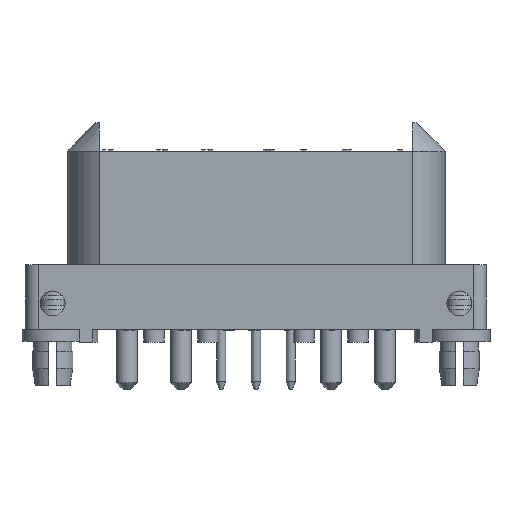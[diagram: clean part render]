
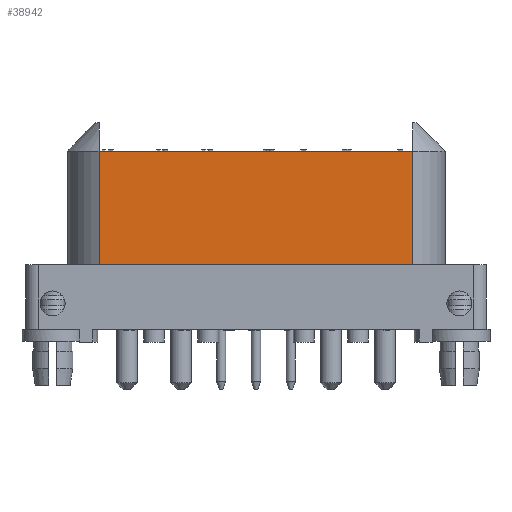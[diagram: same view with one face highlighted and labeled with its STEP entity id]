
A CAD part, front view. The second image highlights one B-rep face of the part: STEP entity #38942.
In plain terms, the highlighted planar face has unit normal (0, -1, 0).
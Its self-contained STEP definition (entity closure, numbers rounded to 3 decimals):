
#63 = ORIENTED_EDGE ( 'NONE', *, *, #23722, .F. ) ;
#1077 = VECTOR ( 'NONE', #43194, 1000. ) ;
#1976 = CARTESIAN_POINT ( 'NONE',  ( 12.15, -4.4, -8.8 ) ) ;
#5747 = VERTEX_POINT ( 'NONE', #35285 ) ;
#5969 = ORIENTED_EDGE ( 'NONE', *, *, #41421, .F. ) ;
#6167 = CARTESIAN_POINT ( 'NONE',  ( -12.15, -4.4, -14.8 ) ) ;
#6658 = LINE ( 'NONE', #24655, #38358 ) ;
#7205 = DIRECTION ( 'NONE',  ( 0., 0., 1. ) ) ;
#8109 = DIRECTION ( 'NONE',  ( -1., 0., 0. ) ) ;
#9483 = VERTEX_POINT ( 'NONE', #45955 ) ;
#17825 = LINE ( 'NONE', #43117, #53683 ) ;
#22124 = CARTESIAN_POINT ( 'NONE',  ( -12.15, -4.4, -14.8 ) ) ;
#23722 = EDGE_CURVE ( 'NONE', #45962, #49558, #33990, .T. ) ;
#24466 = EDGE_CURVE ( 'NONE', #9483, #5747, #17825, .T. ) ;
#24655 = CARTESIAN_POINT ( 'NONE',  ( 12.15, -4.4, -14.8 ) ) ;
#25791 = VECTOR ( 'NONE', #8109, 1000. ) ;
#27826 = FACE_OUTER_BOUND ( 'NONE', #37873, .T. ) ;
#29705 = ORIENTED_EDGE ( 'NONE', *, *, #24466, .F. ) ;
#31311 = DIRECTION ( 'NONE',  ( 1., 0., 0. ) ) ;
#32081 = ORIENTED_EDGE ( 'NONE', *, *, #36027, .T. ) ;
#32326 = DIRECTION ( 'NONE',  ( 0., 0., -1. ) ) ;
#33990 = LINE ( 'NONE', #38482, #25791 ) ;
#35285 = CARTESIAN_POINT ( 'NONE',  ( 12.15, -4.4, 0. ) ) ;
#36027 = EDGE_CURVE ( 'NONE', #45962, #5747, #6658, .T. ) ;
#37873 = EDGE_LOOP ( 'NONE', ( #29705, #5969, #63, #32081 ) ) ;
#38358 = VECTOR ( 'NONE', #7205, 1000. ) ;
#38482 = CARTESIAN_POINT ( 'NONE',  ( -12.15, -4.4, -8.8 ) ) ;
#38942 = ADVANCED_FACE ( 'NONE', ( #27826 ), #44698, .T. ) ;
#40759 = DIRECTION ( 'NONE',  ( 0., -1., 0. ) ) ;
#41421 = EDGE_CURVE ( 'NONE', #49558, #9483, #43481, .T. ) ;
#43117 = CARTESIAN_POINT ( 'NONE',  ( -12.15, -4.4, 0. ) ) ;
#43194 = DIRECTION ( 'NONE',  ( 0., 0., 1. ) ) ;
#43481 = LINE ( 'NONE', #22124, #1077 ) ;
#43813 = CARTESIAN_POINT ( 'NONE',  ( -12.15, -4.4, -8.8 ) ) ;
#44038 = AXIS2_PLACEMENT_3D ( 'NONE', #6167, #40759, #32326 ) ;
#44698 = PLANE ( 'NONE',  #44038 ) ;
#45955 = CARTESIAN_POINT ( 'NONE',  ( -12.15, -4.4, 0. ) ) ;
#45962 = VERTEX_POINT ( 'NONE', #1976 ) ;
#49558 = VERTEX_POINT ( 'NONE', #43813 ) ;
#53683 = VECTOR ( 'NONE', #31311, 1000. ) ;
